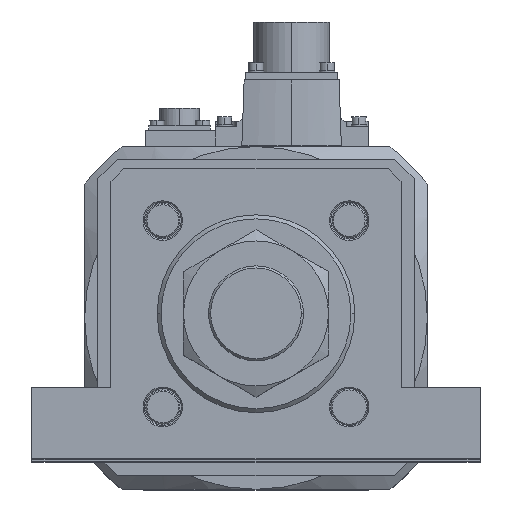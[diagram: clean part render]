
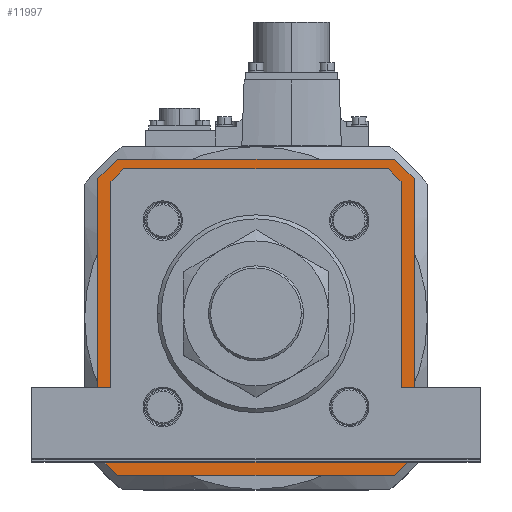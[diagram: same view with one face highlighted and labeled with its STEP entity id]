
A CAD part, top view. The second image highlights one B-rep face of the part: STEP entity #11997.
In plain terms, the highlighted planar face has unit normal (0, 0, 1) as drawn and (0, 0, -1) by its records, which use the part's own axes.
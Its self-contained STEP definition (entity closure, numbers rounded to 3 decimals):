
#699 = VECTOR ( 'NONE', #32521, 1000. ) ;
#755 = DIRECTION ( 'NONE',  ( -0.707, 0.707, 0. ) ) ;
#986 = DIRECTION ( 'NONE',  ( -0.707, -0.707, 0. ) ) ;
#1075 = CARTESIAN_POINT ( 'NONE',  ( -60., 60., 52. ) ) ;
#1116 = EDGE_CURVE ( 'NONE', #27344, #10824, #4482, .T. ) ;
#1496 = VECTOR ( 'NONE', #986, 1000. ) ;
#1656 = EDGE_CURVE ( 'NONE', #27344, #11075, #34421, .T. ) ;
#1705 = CARTESIAN_POINT ( 'NONE',  ( 49.8, -53.5, 52. ) ) ;
#1766 = PLANE ( 'NONE',  #25277 ) ;
#2569 = LINE ( 'NONE', #33033, #32982 ) ;
#2795 = VERTEX_POINT ( 'NONE', #11490 ) ;
#2953 = DIRECTION ( 'NONE',  ( 0., 1., 0. ) ) ;
#3085 = CARTESIAN_POINT ( 'NONE',  ( -60., -60., 52. ) ) ;
#3427 = CARTESIAN_POINT ( 'NONE',  ( -60., 60., 52. ) ) ;
#3549 = CARTESIAN_POINT ( 'NONE',  ( 51.546, 51.546, 52. ) ) ;
#3626 = VERTEX_POINT ( 'NONE', #7044 ) ;
#3896 = CARTESIAN_POINT ( 'NONE',  ( -60., -52.5, 52. ) ) ;
#3928 = CARTESIAN_POINT ( 'NONE',  ( -53.5, -49.8, 52. ) ) ;
#3995 = ORIENTED_EDGE ( 'NONE', *, *, #9068, .F. ) ;
#4083 = LINE ( 'NONE', #3928, #16055 ) ;
#4149 = ORIENTED_EDGE ( 'NONE', *, *, #22475, .T. ) ;
#4232 = CARTESIAN_POINT ( 'NONE',  ( 52.5, 60., 52. ) ) ;
#4482 = LINE ( 'NONE', #27940, #34885 ) ;
#4863 = VECTOR ( 'NONE', #34314, 1000. ) ;
#5078 = VECTOR ( 'NONE', #16378, 1000. ) ;
#5270 = VERTEX_POINT ( 'NONE', #30024 ) ;
#5298 = ORIENTED_EDGE ( 'NONE', *, *, #28980, .T. ) ;
#6174 = EDGE_LOOP ( 'NONE', ( #34959, #23739, #3995, #4149, #33158, #10067, #28444, #23480 ) ) ;
#6332 = EDGE_CURVE ( 'NONE', #23122, #22706, #2569, .T. ) ;
#6612 = VERTEX_POINT ( 'NONE', #37653 ) ;
#6636 = VECTOR ( 'NONE', #755, 1000. ) ;
#7044 = CARTESIAN_POINT ( 'NONE',  ( 49.593, 53.5, 52. ) ) ;
#7386 = DIRECTION ( 'NONE',  ( 0.707, -0.707, 0. ) ) ;
#7675 = DIRECTION ( 'NONE',  ( 0., 0., 1. ) ) ;
#8536 = LINE ( 'NONE', #13725, #4863 ) ;
#9061 = VECTOR ( 'NONE', #20848, 1000. ) ;
#9063 = EDGE_CURVE ( 'NONE', #2795, #11075, #19438, .T. ) ;
#9068 = EDGE_CURVE ( 'NONE', #6612, #10824, #18059, .T. ) ;
#9073 = CARTESIAN_POINT ( 'NONE',  ( -51.546, 51.546, 52. ) ) ;
#9190 = CARTESIAN_POINT ( 'NONE',  ( 52.5, 60., 52. ) ) ;
#9682 = LINE ( 'NONE', #32181, #29947 ) ;
#9713 = CARTESIAN_POINT ( 'NONE',  ( 60., -52.5, 52. ) ) ;
#10067 = ORIENTED_EDGE ( 'NONE', *, *, #31473, .T. ) ;
#10232 = CARTESIAN_POINT ( 'NONE',  ( 49.593, -53.5, 52. ) ) ;
#10640 = DIRECTION ( 'NONE',  ( -1., 0., 0. ) ) ;
#10824 = VERTEX_POINT ( 'NONE', #3896 ) ;
#11075 = VERTEX_POINT ( 'NONE', #35020 ) ;
#11202 = EDGE_CURVE ( 'NONE', #2795, #17138, #9682, .T. ) ;
#11490 = CARTESIAN_POINT ( 'NONE',  ( 60., -52.5, 52. ) ) ;
#11729 = EDGE_LOOP ( 'NONE', ( #31400, #16054, #18081, #20464, #25108, #5298, #35501, #26421 ) ) ;
#11997 = ADVANCED_FACE ( 'NONE', ( #14720, #17017 ), #1766, .F. ) ;
#13334 = CARTESIAN_POINT ( 'NONE',  ( -52.5, -60., 52. ) ) ;
#13653 = VERTEX_POINT ( 'NONE', #10232 ) ;
#13725 = CARTESIAN_POINT ( 'NONE',  ( -60., 52.5, 52. ) ) ;
#13853 = LINE ( 'NONE', #1705, #5078 ) ;
#14058 = VECTOR ( 'NONE', #16842, 1000. ) ;
#14720 = FACE_BOUND ( 'NONE', #11729, .T. ) ;
#14960 = VERTEX_POINT ( 'NONE', #29413 ) ;
#15084 = EDGE_CURVE ( 'NONE', #22706, #3626, #16322, .T. ) ;
#15526 = EDGE_CURVE ( 'NONE', #13653, #23122, #15877, .T. ) ;
#15877 = LINE ( 'NONE', #31835, #22773 ) ;
#15962 = EDGE_CURVE ( 'NONE', #37535, #20692, #16326, .T. ) ;
#16019 = CARTESIAN_POINT ( 'NONE',  ( 60., 52.5, 52. ) ) ;
#16054 = ORIENTED_EDGE ( 'NONE', *, *, #25936, .T. ) ;
#16055 = VECTOR ( 'NONE', #30953, 1000. ) ;
#16322 = LINE ( 'NONE', #3549, #6636 ) ;
#16326 = LINE ( 'NONE', #1075, #19532 ) ;
#16378 = DIRECTION ( 'NONE',  ( 1., 0., 0. ) ) ;
#16644 = VERTEX_POINT ( 'NONE', #22740 ) ;
#16842 = DIRECTION ( 'NONE',  ( 0.707, -0.707, 0. ) ) ;
#17017 = FACE_OUTER_BOUND ( 'NONE', #6174, .T. ) ;
#17055 = DIRECTION ( 'NONE',  ( 0.707, 0.707, 0. ) ) ;
#17138 = VERTEX_POINT ( 'NONE', #16019 ) ;
#18059 = LINE ( 'NONE', #3427, #20826 ) ;
#18081 = ORIENTED_EDGE ( 'NONE', *, *, #33234, .T. ) ;
#18376 = CARTESIAN_POINT ( 'NONE',  ( -52.5, 60., 52. ) ) ;
#18553 = DIRECTION ( 'NONE',  ( -0.707, 0.707, 0. ) ) ;
#18819 = DIRECTION ( 'NONE',  ( -1., 0., 0. ) ) ;
#19438 = LINE ( 'NONE', #9713, #1496 ) ;
#19532 = VECTOR ( 'NONE', #18819, 1000. ) ;
#19808 = VERTEX_POINT ( 'NONE', #31954 ) ;
#20464 = ORIENTED_EDGE ( 'NONE', *, *, #37594, .T. ) ;
#20692 = VERTEX_POINT ( 'NONE', #18376 ) ;
#20826 = VECTOR ( 'NONE', #21055, 1000. ) ;
#20848 = DIRECTION ( 'NONE',  ( 1., 0., 0. ) ) ;
#21055 = DIRECTION ( 'NONE',  ( 0., -1., 0. ) ) ;
#21359 = VECTOR ( 'NONE', #7386, 1000. ) ;
#21803 = LINE ( 'NONE', #25028, #21359 ) ;
#22355 = DIRECTION ( 'NONE',  ( 1., 0., 0. ) ) ;
#22475 = EDGE_CURVE ( 'NONE', #6612, #20692, #8536, .T. ) ;
#22706 = VERTEX_POINT ( 'NONE', #35438 ) ;
#22740 = CARTESIAN_POINT ( 'NONE',  ( -49.593, -53.5, 52. ) ) ;
#22773 = VECTOR ( 'NONE', #17055, 1000. ) ;
#22798 = LINE ( 'NONE', #9073, #699 ) ;
#23122 = VERTEX_POINT ( 'NONE', #23537 ) ;
#23427 = EDGE_CURVE ( 'NONE', #14960, #16644, #21803, .T. ) ;
#23480 = ORIENTED_EDGE ( 'NONE', *, *, #9063, .T. ) ;
#23537 = CARTESIAN_POINT ( 'NONE',  ( 53.5, -49.593, 52. ) ) ;
#23739 = ORIENTED_EDGE ( 'NONE', *, *, #1116, .T. ) ;
#25028 = CARTESIAN_POINT ( 'NONE',  ( -51.546, -51.546, 52. ) ) ;
#25108 = ORIENTED_EDGE ( 'NONE', *, *, #23427, .T. ) ;
#25277 = AXIS2_PLACEMENT_3D ( 'NONE', #37047, #7675, #22355 ) ;
#25936 = EDGE_CURVE ( 'NONE', #3626, #19808, #28759, .T. ) ;
#26421 = ORIENTED_EDGE ( 'NONE', *, *, #6332, .T. ) ;
#26924 = VECTOR ( 'NONE', #10640, 1000. ) ;
#27344 = VERTEX_POINT ( 'NONE', #13334 ) ;
#27735 = DIRECTION ( 'NONE',  ( 0., 1., 0. ) ) ;
#27940 = CARTESIAN_POINT ( 'NONE',  ( -52.5, -60., 52. ) ) ;
#28444 = ORIENTED_EDGE ( 'NONE', *, *, #11202, .F. ) ;
#28759 = LINE ( 'NONE', #37172, #26924 ) ;
#28980 = EDGE_CURVE ( 'NONE', #16644, #13653, #13853, .T. ) ;
#29413 = CARTESIAN_POINT ( 'NONE',  ( -53.5, -49.593, 52. ) ) ;
#29947 = VECTOR ( 'NONE', #2953, 1000. ) ;
#30024 = CARTESIAN_POINT ( 'NONE',  ( -53.5, 49.593, 52. ) ) ;
#30953 = DIRECTION ( 'NONE',  ( 0., -1., 0. ) ) ;
#31400 = ORIENTED_EDGE ( 'NONE', *, *, #15084, .T. ) ;
#31473 = EDGE_CURVE ( 'NONE', #37535, #17138, #37131, .T. ) ;
#31835 = CARTESIAN_POINT ( 'NONE',  ( 51.546, -51.546, 52. ) ) ;
#31954 = CARTESIAN_POINT ( 'NONE',  ( -49.593, 53.5, 52. ) ) ;
#32181 = CARTESIAN_POINT ( 'NONE',  ( 60., 60., 52. ) ) ;
#32521 = DIRECTION ( 'NONE',  ( -0.707, -0.707, 0. ) ) ;
#32982 = VECTOR ( 'NONE', #27735, 1000. ) ;
#33033 = CARTESIAN_POINT ( 'NONE',  ( 53.5, 49.8, 52. ) ) ;
#33158 = ORIENTED_EDGE ( 'NONE', *, *, #15962, .F. ) ;
#33234 = EDGE_CURVE ( 'NONE', #19808, #5270, #22798, .T. ) ;
#34314 = DIRECTION ( 'NONE',  ( 0.707, 0.707, 0. ) ) ;
#34421 = LINE ( 'NONE', #3085, #9061 ) ;
#34885 = VECTOR ( 'NONE', #18553, 1000. ) ;
#34959 = ORIENTED_EDGE ( 'NONE', *, *, #1656, .F. ) ;
#35020 = CARTESIAN_POINT ( 'NONE',  ( 52.5, -60., 52. ) ) ;
#35438 = CARTESIAN_POINT ( 'NONE',  ( 53.5, 49.593, 52. ) ) ;
#35501 = ORIENTED_EDGE ( 'NONE', *, *, #15526, .T. ) ;
#37047 = CARTESIAN_POINT ( 'NONE',  ( 0., 0., 52. ) ) ;
#37131 = LINE ( 'NONE', #4232, #14058 ) ;
#37172 = CARTESIAN_POINT ( 'NONE',  ( -49.8, 53.5, 52. ) ) ;
#37535 = VERTEX_POINT ( 'NONE', #9190 ) ;
#37594 = EDGE_CURVE ( 'NONE', #5270, #14960, #4083, .T. ) ;
#37653 = CARTESIAN_POINT ( 'NONE',  ( -60., 52.5, 52. ) ) ;
